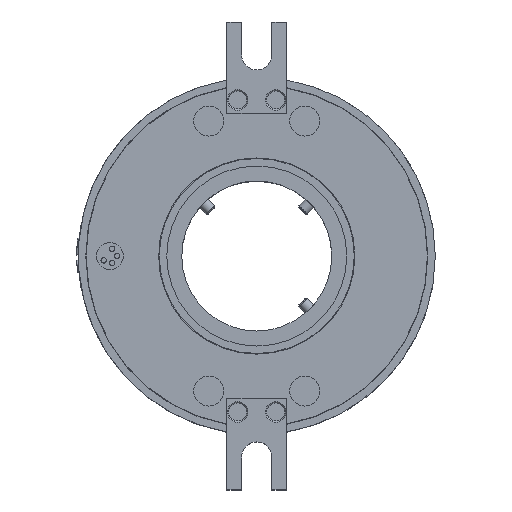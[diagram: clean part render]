
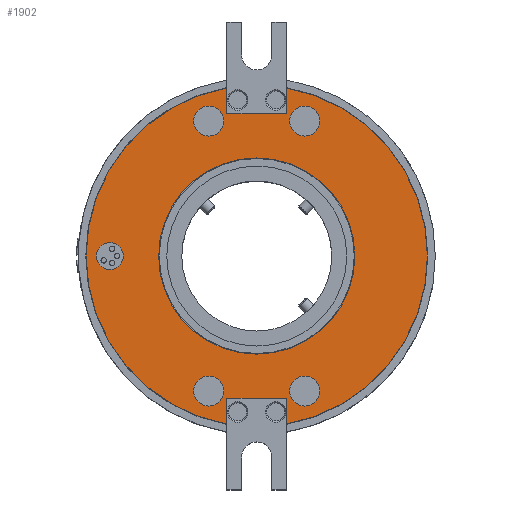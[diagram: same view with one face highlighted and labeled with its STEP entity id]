
A CAD part, top view. The second image highlights one B-rep face of the part: STEP entity #1902.
In plain terms, the highlighted planar face has unit normal (0, 0, 1).
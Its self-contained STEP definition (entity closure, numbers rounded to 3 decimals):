
#218=FACE_BOUND('',#4822,.T.);
#219=FACE_BOUND('',#4823,.T.);
#220=FACE_BOUND('',#4824,.T.);
#221=FACE_BOUND('',#4825,.T.);
#222=FACE_BOUND('',#4826,.T.);
#223=FACE_BOUND('',#4827,.T.);
#224=FACE_BOUND('',#4828,.T.);
#520=CIRCLE('',#16395,56.9);
#521=CIRCLE('',#16396,56.9);
#522=CIRCLE('',#16397,32.7);
#523=CIRCLE('',#16398,5.);
#524=CIRCLE('',#16399,5.);
#525=CIRCLE('',#16400,4.5);
#526=CIRCLE('',#16401,5.);
#527=CIRCLE('',#16402,5.);
#947=PLANE('',#16403);
#1195=LINE('',#30969,#3173);
#1196=LINE('',#30972,#3174);
#1197=LINE('',#30974,#3175);
#1198=LINE('',#30978,#3176);
#1199=LINE('',#30980,#3177);
#1200=LINE('',#30982,#3178);
#1902=ADVANCED_FACE('',(#218,#219,#220,#221,#222,#223,#224),#947,.T.);
#3173=VECTOR('',#17962,1.);
#3174=VECTOR('',#17963,1.);
#3175=VECTOR('',#17964,1.);
#3176=VECTOR('',#17967,1.);
#3177=VECTOR('',#17968,1.);
#3178=VECTOR('',#17969,1.);
#4822=EDGE_LOOP('',(#8053,#8054,#8055,#8056,#8057,#8058,#8059,#8060));
#4823=EDGE_LOOP('',(#8061));
#4824=EDGE_LOOP('',(#8062));
#4825=EDGE_LOOP('',(#8063));
#4826=EDGE_LOOP('',(#8064));
#4827=EDGE_LOOP('',(#8065));
#4828=EDGE_LOOP('',(#8066));
#8053=ORIENTED_EDGE('',*,*,#13178,.F.);
#8054=ORIENTED_EDGE('',*,*,#13179,.F.);
#8055=ORIENTED_EDGE('',*,*,#13180,.F.);
#8056=ORIENTED_EDGE('',*,*,#13181,.F.);
#8057=ORIENTED_EDGE('',*,*,#13182,.F.);
#8058=ORIENTED_EDGE('',*,*,#13183,.F.);
#8059=ORIENTED_EDGE('',*,*,#13184,.F.);
#8060=ORIENTED_EDGE('',*,*,#13185,.F.);
#8061=ORIENTED_EDGE('',*,*,#13186,.F.);
#8062=ORIENTED_EDGE('',*,*,#13187,.T.);
#8063=ORIENTED_EDGE('',*,*,#13188,.T.);
#8064=ORIENTED_EDGE('',*,*,#13189,.T.);
#8065=ORIENTED_EDGE('',*,*,#13190,.T.);
#8066=ORIENTED_EDGE('',*,*,#13191,.T.);
#11044=VERTEX_POINT('',#30970);
#11045=VERTEX_POINT('',#30971);
#11046=VERTEX_POINT('',#30973);
#11047=VERTEX_POINT('',#30975);
#11048=VERTEX_POINT('',#30977);
#11049=VERTEX_POINT('',#30979);
#11050=VERTEX_POINT('',#30981);
#11051=VERTEX_POINT('',#30983);
#11052=VERTEX_POINT('',#30986);
#11053=VERTEX_POINT('',#30988);
#11054=VERTEX_POINT('',#30990);
#11055=VERTEX_POINT('',#30992);
#11056=VERTEX_POINT('',#30994);
#11057=VERTEX_POINT('',#30996);
#13178=EDGE_CURVE('',#11044,#11045,#1195,.T.);
#13179=EDGE_CURVE('',#11046,#11044,#1196,.T.);
#13180=EDGE_CURVE('',#11047,#11046,#1197,.T.);
#13181=EDGE_CURVE('',#11048,#11047,#520,.T.);
#13182=EDGE_CURVE('',#11049,#11048,#1198,.T.);
#13183=EDGE_CURVE('',#11050,#11049,#1199,.T.);
#13184=EDGE_CURVE('',#11051,#11050,#1200,.T.);
#13185=EDGE_CURVE('',#11045,#11051,#521,.T.);
#13186=EDGE_CURVE('',#11052,#11052,#522,.T.);
#13187=EDGE_CURVE('',#11053,#11053,#523,.T.);
#13188=EDGE_CURVE('',#11054,#11054,#524,.T.);
#13189=EDGE_CURVE('',#11055,#11055,#525,.T.);
#13190=EDGE_CURVE('',#11056,#11056,#526,.T.);
#13191=EDGE_CURVE('',#11057,#11057,#527,.T.);
#16395=AXIS2_PLACEMENT_3D('',#30976,#17965,#17966);
#16396=AXIS2_PLACEMENT_3D('',#30984,#17970,#17971);
#16397=AXIS2_PLACEMENT_3D('',#30985,#17972,#17973);
#16398=AXIS2_PLACEMENT_3D('',#30987,#17974,#17975);
#16399=AXIS2_PLACEMENT_3D('',#30989,#17976,#17977);
#16400=AXIS2_PLACEMENT_3D('',#30991,#17978,#17979);
#16401=AXIS2_PLACEMENT_3D('',#30993,#17980,#17981);
#16402=AXIS2_PLACEMENT_3D('',#30995,#17982,#17983);
#16403=AXIS2_PLACEMENT_3D('',#30997,#17984,#17985);
#17962=DIRECTION('',(0.,-1.,0.));
#17963=DIRECTION('',(-1.,0.,0.));
#17964=DIRECTION('',(0.,1.,0.));
#17965=DIRECTION('',(0.,0.,-1.));
#17966=DIRECTION('',(1.,0.,0.));
#17967=DIRECTION('',(0.,1.,0.));
#17968=DIRECTION('',(1.,0.,0.));
#17969=DIRECTION('',(0.,-1.,0.));
#17970=DIRECTION('',(0.,0.,-1.));
#17971=DIRECTION('',(1.,0.,0.));
#17972=DIRECTION('',(0.,0.,1.));
#17973=DIRECTION('',(1.,0.,0.));
#17974=DIRECTION('',(0.,0.,-1.));
#17975=DIRECTION('',(1.,0.,0.));
#17976=DIRECTION('',(0.,0.,-1.));
#17977=DIRECTION('',(1.,0.,0.));
#17978=DIRECTION('',(0.,0.,-1.));
#17979=DIRECTION('',(1.,0.,0.));
#17980=DIRECTION('',(0.,0.,-1.));
#17981=DIRECTION('',(-1.,0.,0.));
#17982=DIRECTION('',(0.,0.,-1.));
#17983=DIRECTION('',(-1.,0.,0.));
#17984=DIRECTION('',(0.,0.,1.));
#17985=DIRECTION('',(1.,0.,0.));
#30969=CARTESIAN_POINT('',(-10.,-62.75,54.5));
#30970=CARTESIAN_POINT('',(-10.,-47.5,54.5));
#30971=CARTESIAN_POINT('',(-10.,-56.014,54.5));
#30972=CARTESIAN_POINT('',(0.,-47.5,54.5));
#30973=CARTESIAN_POINT('',(10.,-47.5,54.5));
#30974=CARTESIAN_POINT('',(10.,-62.75,54.5));
#30975=CARTESIAN_POINT('',(10.,-56.014,54.5));
#30976=CARTESIAN_POINT('',(0.,0.,54.5));
#30977=CARTESIAN_POINT('',(10.,56.014,54.5));
#30978=CARTESIAN_POINT('',(10.,62.75,54.5));
#30979=CARTESIAN_POINT('',(10.,47.5,54.5));
#30980=CARTESIAN_POINT('',(0.,47.5,54.5));
#30981=CARTESIAN_POINT('',(-10.,47.5,54.5));
#30982=CARTESIAN_POINT('',(-10.,62.75,54.5));
#30983=CARTESIAN_POINT('',(-10.,56.014,54.5));
#30984=CARTESIAN_POINT('',(0.,0.,54.5));
#30985=CARTESIAN_POINT('',(0.,0.,54.5));
#30986=CARTESIAN_POINT('',(32.7,0.,54.5));
#30987=CARTESIAN_POINT('',(16.,-45.,54.5));
#30988=CARTESIAN_POINT('',(21.,-45.,54.5));
#30989=CARTESIAN_POINT('',(-16.,-45.,54.5));
#30990=CARTESIAN_POINT('',(-11.,-45.,54.5));
#30991=CARTESIAN_POINT('',(-49.,0.,54.5));
#30992=CARTESIAN_POINT('',(-44.5,0.,54.5));
#30993=CARTESIAN_POINT('',(16.,45.,54.5));
#30994=CARTESIAN_POINT('',(11.,45.,54.5));
#30995=CARTESIAN_POINT('',(-16.,45.,54.5));
#30996=CARTESIAN_POINT('',(-21.,45.,54.5));
#30997=CARTESIAN_POINT('',(0.,0.,54.5));
